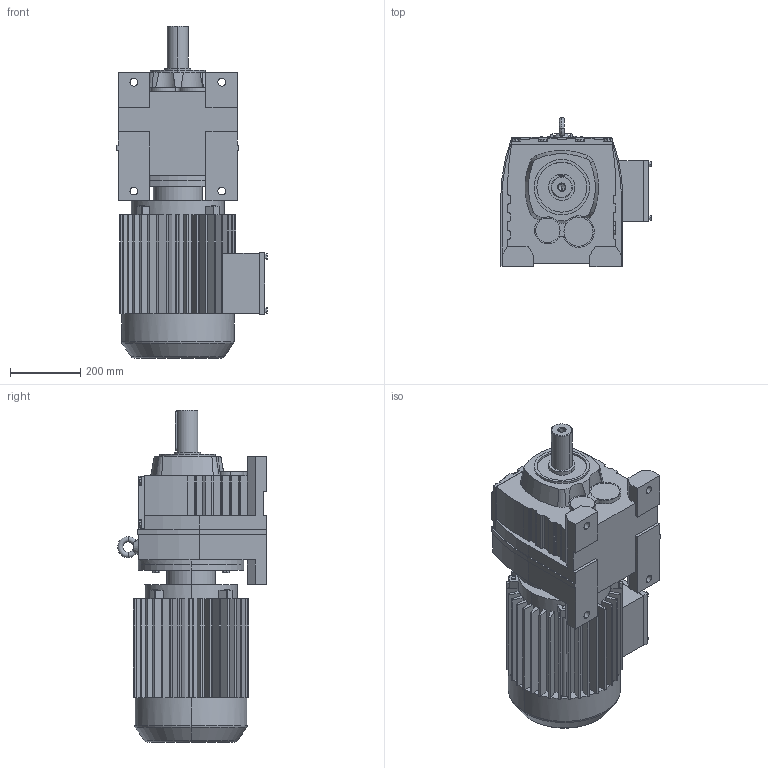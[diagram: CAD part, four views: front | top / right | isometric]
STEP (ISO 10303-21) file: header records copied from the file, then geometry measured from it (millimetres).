
FILE_DESCRIPTION(('Open CASCADE Model'),'2;1');
FILE_NAME('Open CASCADE Shape Model','2021-07-10T13:14:21',('Author'),( 'Open CASCADE'),'Open CASCADE STEP processor 6.3','Open CASCADE 6.3' ,'Unknown');
FILE_SCHEMA(('AUTOMOTIVE_DESIGN_CC2 { 1 2 10303 214 -1 1 5 4 }'));
Length unit declared in the file: millimetre
Products named in the file (3): 1_R97-Y160M; R37‵167_97.step; 萇儂_300_Y160M.step
Assembly tree (2 placements, depth 2):
  1_R97-Y160M
    R37‵167_97.step
    萇儂_300_Y160M.step
Bounding box: 429 x 424 x 945 mm (x, y, z)
Volume: 67077568.7 mm3; surface area: 2126499.3 mm2
Topology: 2 solids, 2 shells, 742 faces, 1973 edges, 1276 vertices
Faces by surface type: plane 527, cylinder 185, cone 20, torus 10
Entity records: 51691 total; most frequent: CARTESIAN_POINT 14027, DIRECTION 6572, ORIENTED_EDGE 3942, PCURVE 3942, DEFINITIONAL_REPRESENTATION 3942, LINE 3682, VECTOR 3682, EDGE_CURVE 1971
